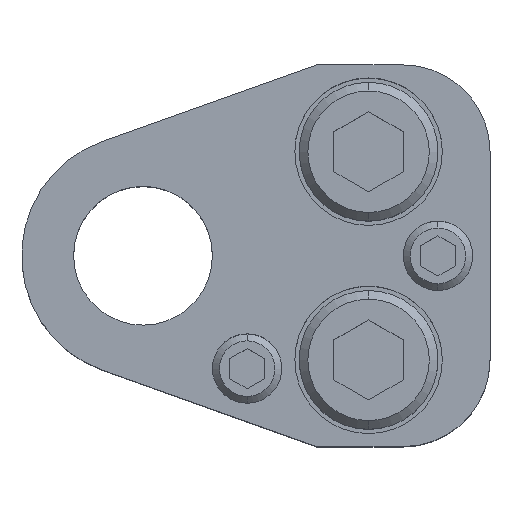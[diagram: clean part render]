
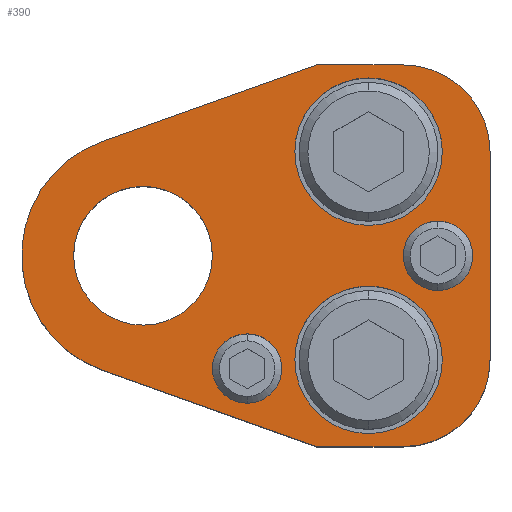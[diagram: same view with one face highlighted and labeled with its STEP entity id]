
A CAD part, top view. The second image highlights one B-rep face of the part: STEP entity #390.
In plain terms, the highlighted planar face has unit normal (0, 0, 1).
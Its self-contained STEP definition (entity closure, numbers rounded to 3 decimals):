
#191=FACE_BOUND('',#705,.T.);
#192=FACE_BOUND('',#706,.T.);
#193=FACE_BOUND('',#707,.T.);
#194=FACE_BOUND('',#708,.T.);
#195=FACE_BOUND('',#709,.T.);
#196=FACE_BOUND('',#710,.T.);
#242=CIRCLE('',#2282,10.);
#244=CIRCLE('',#2286,10.);
#246=CIRCLE('',#2290,4.);
#248=CIRCLE('',#2293,4.);
#250=CIRCLE('',#2296,4.);
#252=CIRCLE('',#2299,4.);
#262=CIRCLE('',#2314,14.);
#263=CIRCLE('',#2315,8.5);
#264=CIRCLE('',#2316,8.5);
#265=CIRCLE('',#2317,8.5);
#266=CIRCLE('',#2318,8.5);
#267=CIRCLE('',#2319,8.);
#268=CIRCLE('',#2320,8.);
#390=ADVANCED_FACE('',(#191,#192,#193,#194,#195,#196),#502,.T.);
#502=PLANE('',#2321);
#705=EDGE_LOOP('',(#997,#998,#999,#1000,#1001,#1002,#1003,#1004));
#706=EDGE_LOOP('',(#1005,#1006));
#707=EDGE_LOOP('',(#1007,#1008));
#708=EDGE_LOOP('',(#1009,#1010));
#709=EDGE_LOOP('',(#1011,#1012));
#710=EDGE_LOOP('',(#1013,#1014));
#997=ORIENTED_EDGE('',*,*,#1702,.T.);
#998=ORIENTED_EDGE('',*,*,#1703,.T.);
#999=ORIENTED_EDGE('',*,*,#1663,.T.);
#1000=ORIENTED_EDGE('',*,*,#1667,.T.);
#1001=ORIENTED_EDGE('',*,*,#1670,.T.);
#1002=ORIENTED_EDGE('',*,*,#1673,.T.);
#1003=ORIENTED_EDGE('',*,*,#1676,.T.);
#1004=ORIENTED_EDGE('',*,*,#1704,.T.);
#1005=ORIENTED_EDGE('',*,*,#1705,.F.);
#1006=ORIENTED_EDGE('',*,*,#1706,.F.);
#1007=ORIENTED_EDGE('',*,*,#1707,.F.);
#1008=ORIENTED_EDGE('',*,*,#1708,.F.);
#1009=ORIENTED_EDGE('',*,*,#1688,.F.);
#1010=ORIENTED_EDGE('',*,*,#1684,.F.);
#1011=ORIENTED_EDGE('',*,*,#1682,.F.);
#1012=ORIENTED_EDGE('',*,*,#1678,.F.);
#1013=ORIENTED_EDGE('',*,*,#1709,.T.);
#1014=ORIENTED_EDGE('',*,*,#1710,.T.);
#1450=VERTEX_POINT('',#3309);
#1451=VERTEX_POINT('',#3311);
#1454=VERTEX_POINT('',#3318);
#1456=VERTEX_POINT('',#3324);
#1458=VERTEX_POINT('',#3330);
#1460=VERTEX_POINT('',#3336);
#1461=VERTEX_POINT('',#3341);
#1462=VERTEX_POINT('',#3342);
#1465=VERTEX_POINT('',#3353);
#1466=VERTEX_POINT('',#3354);
#1477=VERTEX_POINT('',#3389);
#1478=VERTEX_POINT('',#3390);
#1479=VERTEX_POINT('',#3394);
#1480=VERTEX_POINT('',#3395);
#1481=VERTEX_POINT('',#3398);
#1482=VERTEX_POINT('',#3399);
#1483=VERTEX_POINT('',#3402);
#1484=VERTEX_POINT('',#3403);
#1663=EDGE_CURVE('',#1451,#1450,#1943,.T.);
#1667=EDGE_CURVE('',#1450,#1454,#242,.T.);
#1670=EDGE_CURVE('',#1454,#1456,#1948,.T.);
#1673=EDGE_CURVE('',#1456,#1458,#244,.T.);
#1676=EDGE_CURVE('',#1458,#1460,#1952,.T.);
#1678=EDGE_CURVE('',#1461,#1462,#246,.T.);
#1682=EDGE_CURVE('',#1462,#1461,#248,.T.);
#1684=EDGE_CURVE('',#1465,#1466,#250,.T.);
#1688=EDGE_CURVE('',#1466,#1465,#252,.T.);
#1702=EDGE_CURVE('',#1477,#1478,#262,.T.);
#1703=EDGE_CURVE('',#1478,#1451,#1962,.T.);
#1704=EDGE_CURVE('',#1460,#1477,#1963,.T.);
#1705=EDGE_CURVE('',#1479,#1480,#263,.T.);
#1706=EDGE_CURVE('',#1480,#1479,#264,.T.);
#1707=EDGE_CURVE('',#1481,#1482,#265,.T.);
#1708=EDGE_CURVE('',#1482,#1481,#266,.T.);
#1709=EDGE_CURVE('',#1483,#1484,#267,.T.);
#1710=EDGE_CURVE('',#1484,#1483,#268,.T.);
#1943=LINE('',#3310,#2113);
#1948=LINE('',#3325,#2118);
#1952=LINE('',#3337,#2122);
#1962=LINE('',#3391,#2132);
#1963=LINE('',#3392,#2133);
#2113=VECTOR('',#2633,1.);
#2118=VECTOR('',#2646,1.);
#2122=VECTOR('',#2658,1.);
#2132=VECTOR('',#2720,1.);
#2133=VECTOR('',#2721,1.);
#2282=AXIS2_PLACEMENT_3D('',#3319,#2639,#2640);
#2286=AXIS2_PLACEMENT_3D('',#3331,#2651,#2652);
#2290=AXIS2_PLACEMENT_3D('',#3340,#2662,#2663);
#2293=AXIS2_PLACEMENT_3D('',#3349,#2670,#2671);
#2296=AXIS2_PLACEMENT_3D('',#3352,#2676,#2677);
#2299=AXIS2_PLACEMENT_3D('',#3361,#2684,#2685);
#2314=AXIS2_PLACEMENT_3D('',#3388,#2718,#2719);
#2315=AXIS2_PLACEMENT_3D('',#3393,#2722,#2723);
#2316=AXIS2_PLACEMENT_3D('',#3396,#2724,#2725);
#2317=AXIS2_PLACEMENT_3D('',#3397,#2726,#2727);
#2318=AXIS2_PLACEMENT_3D('',#3400,#2728,#2729);
#2319=AXIS2_PLACEMENT_3D('',#3401,#2730,#2731);
#2320=AXIS2_PLACEMENT_3D('',#3404,#2732,#2733);
#2321=AXIS2_PLACEMENT_3D('',#3405,#2734,#2735);
#2633=DIRECTION('',(1.,0.,0.));
#2639=DIRECTION('',(0.,0.,1.));
#2640=DIRECTION('',(-0.707,0.707,0.));
#2646=DIRECTION('',(0.,1.,0.));
#2651=DIRECTION('',(0.,0.,1.));
#2652=DIRECTION('',(-0.707,-0.707,0.));
#2658=DIRECTION('',(-1.,0.,0.));
#2662=DIRECTION('',(0.,0.,1.));
#2663=DIRECTION('',(1.,0.,0.));
#2670=DIRECTION('',(0.,0.,1.));
#2671=DIRECTION('',(-1.,0.,0.));
#2676=DIRECTION('',(0.,0.,1.));
#2677=DIRECTION('',(1.,0.,0.));
#2684=DIRECTION('',(0.,0.,1.));
#2685=DIRECTION('',(-1.,0.,0.));
#2718=DIRECTION('',(0.,0.,1.));
#2719=DIRECTION('',(0.,1.,0.));
#2720=DIRECTION('',(0.942,-0.336,0.));
#2721=DIRECTION('',(-0.942,-0.336,0.));
#2722=DIRECTION('',(0.,0.,1.));
#2723=DIRECTION('',(1.,0.,0.));
#2724=DIRECTION('',(0.,0.,1.));
#2725=DIRECTION('',(-1.,0.,0.));
#2726=DIRECTION('',(0.,0.,1.));
#2727=DIRECTION('',(1.,0.,0.));
#2728=DIRECTION('',(0.,0.,1.));
#2729=DIRECTION('',(-1.,0.,0.));
#2730=DIRECTION('',(0.,0.,-1.));
#2731=DIRECTION('',(-1.,0.,0.));
#2732=DIRECTION('',(0.,0.,-1.));
#2733=DIRECTION('',(1.,0.,0.));
#2734=DIRECTION('',(0.,0.,1.));
#2735=DIRECTION('',(0.942,0.336,0.));
#3309=CARTESIAN_POINT('',(30.,-22.,30.));
#3310=CARTESIAN_POINT('',(20.,-22.,30.));
#3311=CARTESIAN_POINT('',(20.,-22.,30.));
#3318=CARTESIAN_POINT('',(40.,-12.,30.));
#3319=CARTESIAN_POINT('',(30.,-12.,30.));
#3324=CARTESIAN_POINT('',(40.,12.,30.));
#3325=CARTESIAN_POINT('',(40.,-12.,30.));
#3330=CARTESIAN_POINT('',(30.,22.,30.));
#3331=CARTESIAN_POINT('',(30.,12.,30.));
#3336=CARTESIAN_POINT('',(20.,22.,30.));
#3337=CARTESIAN_POINT('',(20.,22.,30.));
#3340=CARTESIAN_POINT('',(12.,-13.,30.));
#3341=CARTESIAN_POINT('',(12.,-9.,30.));
#3342=CARTESIAN_POINT('',(12.,-17.,30.));
#3349=CARTESIAN_POINT('',(12.,-13.,30.));
#3352=CARTESIAN_POINT('',(34.,0.,30.));
#3353=CARTESIAN_POINT('',(34.,4.,30.));
#3354=CARTESIAN_POINT('',(34.,-4.,30.));
#3361=CARTESIAN_POINT('',(34.,0.,30.));
#3388=CARTESIAN_POINT('',(0.,0.,30.));
#3389=CARTESIAN_POINT('',(-4.704,13.186,30.));
#3390=CARTESIAN_POINT('',(-4.704,-13.186,30.));
#3391=CARTESIAN_POINT('',(20.,-22.,30.));
#3392=CARTESIAN_POINT('',(20.,22.,30.));
#3393=CARTESIAN_POINT('',(26.,-12.,30.));
#3394=CARTESIAN_POINT('',(26.,-3.5,30.));
#3395=CARTESIAN_POINT('',(26.,-20.5,30.));
#3396=CARTESIAN_POINT('',(26.,-12.,30.));
#3397=CARTESIAN_POINT('',(26.,12.,30.));
#3398=CARTESIAN_POINT('',(26.,20.5,30.));
#3399=CARTESIAN_POINT('',(26.,3.5,30.));
#3400=CARTESIAN_POINT('',(26.,12.,30.));
#3401=CARTESIAN_POINT('',(0.,0.,30.));
#3402=CARTESIAN_POINT('',(0.,8.,30.));
#3403=CARTESIAN_POINT('',(0.,-8.,30.));
#3404=CARTESIAN_POINT('',(0.,0.,30.));
#3405=CARTESIAN_POINT('',(-4.704,13.186,30.));
